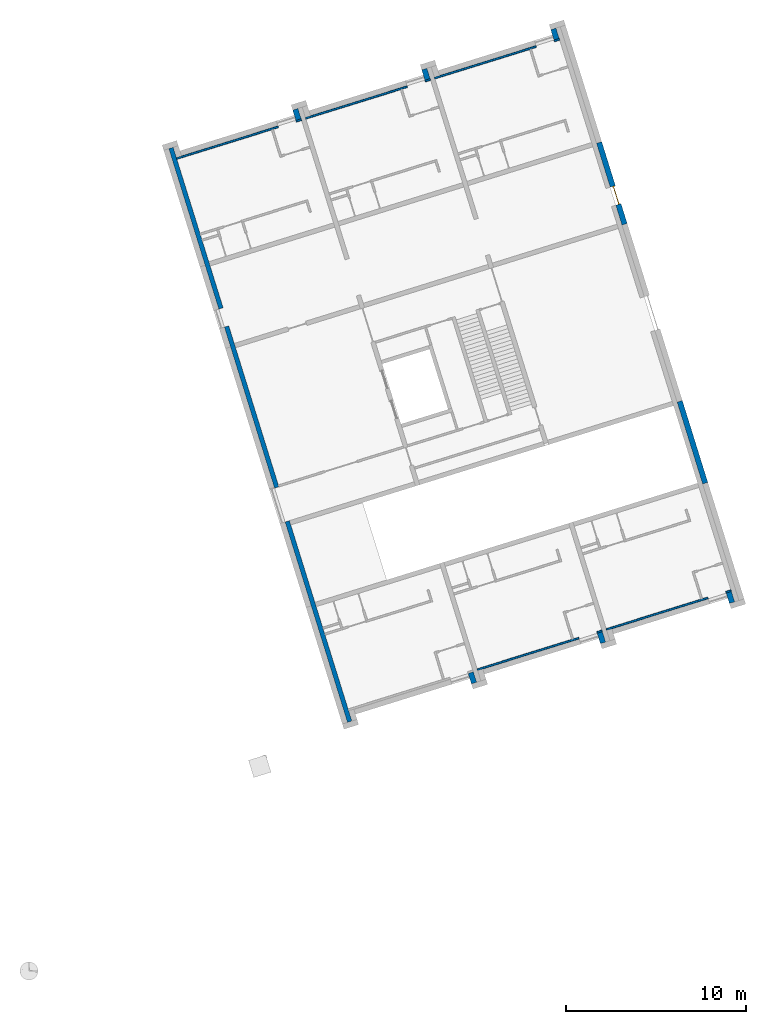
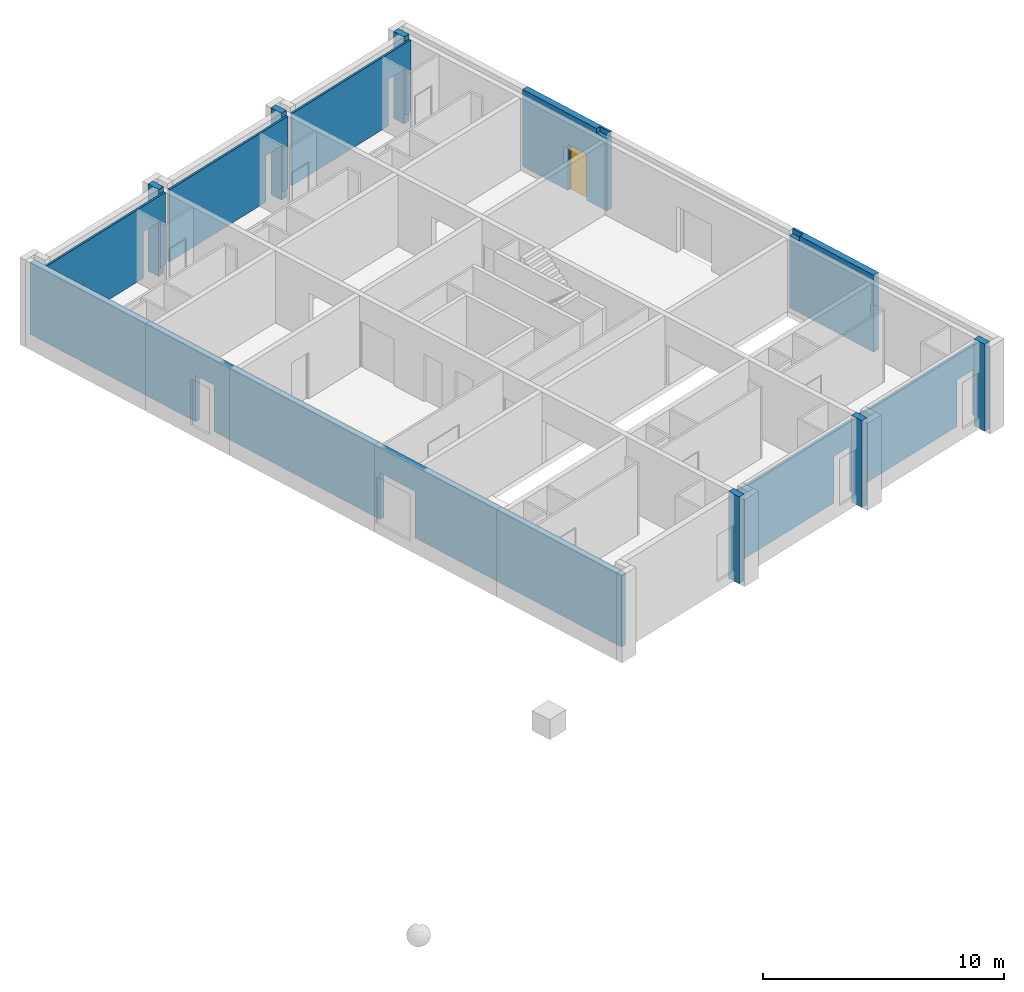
# One storey, part 8 of 10: 14 walls, 1 door, 14 openings.
"""IFC4 building model written with IfcOpenShell, lengths in metres."""

from ifc_helpers import new_model, entity, si_unit, converted_unit, direction, frame, origin, place, context, subcontext, project, spatial, indexed_curve, outline, extrude, polygons, source, transform, mapped, material, constituent, constituent_set, type_object, type_shapes, element, fill, save


model = new_model("IFC4")

# Units and contexts
model_context = context("Model", 3, precision=1e-05, world=origin(), true_north=direction((6.12323399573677e-17, 1.0)))
body_context = subcontext(model_context, "Body", "Model", "MODEL_VIEW")
ifc_project = project(units=[si_unit("LENGTHUNIT", "METRE"), si_unit("AREAUNIT", "SQUARE_METRE"), si_unit("VOLUMEUNIT", "CUBIC_METRE"), converted_unit("PLANEANGLEUNIT", "DEGREE", entity("IfcPlaneAngleMeasure", 0.0174532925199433), si_unit("PLANEANGLEUNIT", "RADIAN"), dimensions=[0, 0, 0, 0, 0, 0, 0])], contexts=[model_context])

# Site, building, storey
site_placement = place(None, frame((13.1347999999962, 11.9886000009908, 0.0), z_axis=(0.0, 0.0, 1.0), x_axis=(0.954770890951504, 0.297342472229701, 0.0)))
site = spatial("IfcSite", under=ifc_project, at=site_placement, Name="Schiehaven", CompositionType="ELEMENT")
building_placement = place(site_placement, origin())
building = spatial("IfcBuilding", under=site, at=building_placement, Name="VORM huis", CompositionType="ELEMENT")
storey_placement = place(building_placement, origin())
storey = spatial("IfcBuildingStorey", under=building, at=storey_placement, Name="00 begane grond", CompositionType="ELEMENT", Elevation=0.0)

# Wall, openings
ifc_material_1 = material(Name="beton_gewapend_ihw", Category="Miscellaneous")
wall_type_1 = type_object("IfcWallType", Name="Basic Wall:28_WA_skelet_wand 250mm_gen", PredefinedType="STANDARD")
wall_1_placement = place(storey_placement, frame((5.0, 0.374999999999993, 0.0), z_axis=(0.0, 0.0, 1.0), x_axis=(0.0, 1.0, 0.0)))
wall_1 = element("IfcWall", 1, at=wall_1_placement, inside=storey, type_object=wall_type_1, material=ifc_material_1, Name="Constructieve wand", ObjectType="Wand", PredefinedType="NOTDEFINED", context=body_context, shape_type="Tessellation", body=[
    polygons([(24.0249999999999, -0.125, 2.34999999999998), (24.0249999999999, -0.125, 0.0), (33.3500000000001, -0.125, 0.0), (33.3500000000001, -0.125, 3.65), (3.38395977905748e-16, -0.125, 3.65), (3.38395977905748e-16, -0.125, 0.0), (11.6500000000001, -0.125000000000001, 0.0), (11.6500000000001, -0.125000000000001, 2.34999999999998), (13.6150000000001, -0.125, 2.34999999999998), (13.6150000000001, -0.125, 0.0), (22.9749999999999, -0.125, 0.0), (22.9749999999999, -0.125, 2.34999999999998), (33.3500000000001, 0.124999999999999, 0.0), (24.0249999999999, 0.124999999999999, 0.0), (24.0249999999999, 0.124999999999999, 2.34999999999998), (22.9749999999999, 0.125, 2.34999999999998), (22.9749999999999, 0.125, 0.0), (13.6150000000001, 0.125, 0.0), (13.6150000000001, 0.125, 2.34999999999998), (11.6500000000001, 0.124999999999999, 2.34999999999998), (11.6500000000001, 0.124999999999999, 0.0), (1.35358391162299e-16, 0.124999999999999, 0.0), (1.35358391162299e-16, 0.124999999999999, 3.65), (10.9500000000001, 0.124999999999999, 3.65), (13.3500000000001, 0.124999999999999, 3.65), (21.8250000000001, 0.124999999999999, 3.65), (22.4, 0.124999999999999, 3.65), (33.3500000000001, 0.124999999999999, 3.65)], [[[1, 2, 3, 4, 5, 6, 7, 8, 9, 10, 11, 12]], [[13, 14, 15, 16, 17, 18, 19, 20, 21, 22, 23, 24, 25, 26, 27, 28]], [[11, 10, 18, 17]], [[4, 3, 13, 28]], [[5, 4, 28, 27, 26, 25, 24, 23]], [[6, 5, 23, 22]], [[10, 9, 19, 18]], [[8, 7, 21, 20]], [[9, 8, 20, 19]], [[17, 16, 12, 11]], [[15, 14, 2, 1]], [[16, 15, 1, 12]], [[3, 2, 14, 13]], [[22, 21, 7, 6]]], closed=True),
])
opening_1_placement = place(wall_1_placement, origin())
element("IfcOpeningElement", 2, at=opening_1_placement, cuts=wall_1, Name="Vluchtdeur", PredefinedType="OPENING", context=body_context, shape_type="SweptSolid", body=[
    extrude(outline(indexed_curve([(-1.17499999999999, -0.9825), (1.17499999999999, -0.982500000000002), (1.17499999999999, 0.982500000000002), (-1.17499999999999, 0.982500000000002), (-1.17499999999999, -0.9825)], self_intersect=False)), frame((12.6325000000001, -1.39899999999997, 1.17499999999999), z_axis=(0.0, 1.0, 0.0), x_axis=(0.0, 0.0, -1.0)), (0.0, 0.0, 1.0), 3.048),
])
opening_2_placement = place(wall_1_placement, origin())
element("IfcOpeningElement", 3, at=opening_2_placement, cuts=wall_1, Name="Vluchtdeur", PredefinedType="OPENING", context=body_context, shape_type="SweptSolid", body=[
    extrude(outline(indexed_curve([(-0.525000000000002, -1.17499999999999), (0.525000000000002, -1.17499999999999), (0.524999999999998, 1.17499999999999), (-0.525000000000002, 1.17499999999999), (-0.525000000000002, -1.17499999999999)], self_intersect=False)), frame((23.4999999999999, -1.39899999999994, 1.17499999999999), z_axis=(0.0, 1.0, 0.0), x_axis=(1.0, 0.0, 0.0)), (0.0, 0.0, 1.0), 3.048),
])

# Wall, opening
ifc_material_2 = material(Name="ntb_ntb_ntb", Category="Miscellaneous")
wall_type_2 = type_object("IfcWallType", Name="Basic Wall:21_WA_gevel_binnenspouwwand 100mm_gen", PredefinedType="STANDARD")
wall_2_placement = place(storey_placement, frame((19.875, 1.02499999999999, 0.0), z_axis=(0.0, 0.0, 1.0), x_axis=(-1.0, 0.0, 0.0)))
wall_2 = element("IfcWall", 4, at=wall_2_placement, inside=storey, type_object=wall_type_2, material=ifc_material_2, Name="Binnenspouwblad", ObjectType="Wand", PredefinedType="NOTDEFINED", context=body_context, shape_type="Tessellation", body=[
    polygons([(7.24999999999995, -0.05, 0.0), (7.24999999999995, -0.05, 3.65), (-1.37363248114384e-15, -0.05, 3.65), (-1.37363248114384e-15, -0.05, 0.0), (0.299999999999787, -0.0499999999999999, 0.0), (0.299999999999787, -0.0499999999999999, 2.34999999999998), (1.34999999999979, -0.05, 2.34999999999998), (1.34999999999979, -0.05, 0.0), (7.24999999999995, 0.05, 3.65), (7.24999999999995, 0.05, 0.0), (1.34999999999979, 0.05, 0.0), (1.34999999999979, 0.05, 2.34999999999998), (0.299999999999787, 0.0500000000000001, 2.34999999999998), (0.299999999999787, 0.0500000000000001, 0.0), (-2.05170732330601e-15, 0.05, 0.0), (-2.05170732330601e-15, 0.05, 3.65)], [[[1, 2, 3, 4, 5, 6, 7, 8]], [[9, 10, 11, 12, 13, 14, 15, 16]], [[4, 15, 14, 5]], [[2, 1, 10, 9]], [[3, 2, 9, 16]], [[4, 3, 16, 15]], [[7, 12, 11, 8]], [[13, 6, 5, 14]], [[12, 7, 6, 13]], [[10, 1, 8, 11]]], closed=True),
])
opening_3_placement = place(wall_2_placement, origin())
element("IfcOpeningElement", 5, at=opening_3_placement, cuts=wall_2, Name="Woningtoegangsdeur", PredefinedType="OPENING", context=body_context, shape_type="SweptSolid", body=[
    extrude(outline(indexed_curve([(-1.17499999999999, -0.525000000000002), (1.17499999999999, -0.525), (1.17499999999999, 0.525), (-1.17499999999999, 0.525), (-1.17499999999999, -0.525000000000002)], self_intersect=False)), frame((0.824999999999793, -1.474, 1.17499999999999), z_axis=(0.0, 1.0, 0.0), x_axis=(0.0, 0.0, -1.0)), (0.0, 0.0, 1.0), 3.048),
])

wall_3_placement = place(storey_placement, frame((20.1250000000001, 1.02500000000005, 0.0)))
wall_3 = element("IfcWall", 6, at=wall_3_placement, inside=storey, type_object=wall_type_2, material=ifc_material_2, Name="Binnenspouwblad", ObjectType="Wand", PredefinedType="NOTDEFINED", context=body_context, shape_type="Tessellation", body=[
    polygons([(7.24999999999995, -0.05, 0.0), (7.24999999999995, -0.05, 3.65), (7.27007190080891e-16, -0.0499999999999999, 3.65), (7.27007190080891e-16, -0.0499999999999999, 0.0), (5.90000000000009, -0.05, 0.0), (5.90000000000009, -0.0500000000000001, 2.34999999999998), (6.95000000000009, -0.0500000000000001, 2.34999999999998), (6.95000000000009, -0.0500000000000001, 0.0), (7.24999999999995, 0.05, 3.65), (7.24999999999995, 0.05, 0.0), (6.95000000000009, 0.0499999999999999, 0.0), (6.95000000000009, 0.0499999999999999, 2.34999999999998), (5.90000000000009, 0.0499999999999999, 2.34999999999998), (5.90000000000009, 0.05, 0.0), (3.57318848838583e-16, 0.0500000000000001, 0.0), (3.57318848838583e-16, 0.0500000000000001, 3.65)], [[[1, 2, 3, 4, 5, 6, 7, 8]], [[9, 10, 11, 12, 13, 14, 15, 16]], [[4, 15, 14, 5]], [[2, 1, 10, 9]], [[3, 2, 9, 16]], [[4, 3, 16, 15]], [[13, 6, 5, 14]], [[7, 12, 11, 8]], [[6, 13, 12, 7]], [[10, 1, 8, 11]]], closed=True),
])
opening_4_placement = place(wall_3_placement, origin())
element("IfcOpeningElement", 7, at=opening_4_placement, cuts=wall_3, Name="Woningtoegangsdeur", PredefinedType="OPENING", context=body_context, shape_type="SweptSolid", body=[
    extrude(outline(indexed_curve([(-0.525000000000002, -1.17499999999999), (0.525000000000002, -1.17499999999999), (0.524999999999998, 1.17499999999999), (-0.525000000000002, 1.17499999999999), (-0.525000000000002, -1.17499999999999)], self_intersect=False)), frame((6.42500000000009, -1.57400000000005, 1.17499999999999), z_axis=(0.0, 1.0, 0.0), x_axis=(1.0, 0.0, 0.0)), (0.0, 0.0, 1.0), 3.048),
])

wall_4_placement = place(storey_placement, frame((5.12500000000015, 33.0750000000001, 0.0)))
wall_4 = element("IfcWall", 8, at=wall_4_placement, inside=storey, type_object=wall_type_2, material=ifc_material_2, Name="Binnenspouwblad", ObjectType="Wand", PredefinedType="NOTDEFINED", context=body_context, shape_type="Tessellation", body=[
    polygons([(7.24999999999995, -0.049999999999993, 0.0), (7.24999999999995, -0.049999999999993, 3.65), (3.03737851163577e-16, -0.0499999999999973, 3.65), (3.03737851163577e-16, -0.0499999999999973, 0.0), (5.90000000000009, -0.0499999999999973, 0.0), (5.90000000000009, -0.0499999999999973, 2.34999999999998), (6.95000000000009, -0.049999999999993, 2.34999999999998), (6.95000000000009, -0.049999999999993, 0.0), (7.24999999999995, 0.0500000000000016, 3.65), (7.24999999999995, 0.0500000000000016, 0.0), (6.95000000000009, 0.050000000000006, 0.0), (6.95000000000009, 0.050000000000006, 2.34999999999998), (5.90000000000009, 0.0500000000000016, 2.34999999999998), (5.90000000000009, 0.0500000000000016, 0.0), (2.92273257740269e-17, 0.0500000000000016, 0.0), (2.92273257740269e-17, 0.0500000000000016, 3.65)], [[[1, 2, 3, 4, 5, 6, 7, 8]], [[9, 10, 11, 12, 13, 14, 15, 16]], [[4, 15, 14, 5]], [[2, 1, 10, 9]], [[3, 2, 9, 16]], [[4, 3, 16, 15]], [[13, 6, 5, 14]], [[7, 12, 11, 8]], [[6, 13, 12, 7]], [[10, 1, 8, 11]]], closed=True),
])
opening_5_placement = place(wall_4_placement, origin())
element("IfcOpeningElement", 9, at=opening_5_placement, cuts=wall_4, Name="Woningtoegangsdeur", PredefinedType="OPENING", context=body_context, shape_type="SweptSolid", body=[
    extrude(outline(indexed_curve([(-0.525, -1.17499999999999), (0.525000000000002, -1.17499999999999), (0.525000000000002, 1.17499999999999), (-0.525, 1.17499999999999), (-0.525, -1.17499999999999)], self_intersect=False)), frame((6.42500000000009, -1.474, 1.17499999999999), z_axis=(0.0, 1.0, 0.0), x_axis=(1.0, 0.0, 0.0)), (0.0, 0.0, 1.0), 3.048),
])

wall_5_placement = place(storey_placement, frame((19.8750000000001, 33.075, 0.0), z_axis=(0.0, 0.0, 1.0), x_axis=(-1.0, 0.0, 0.0)))
wall_5 = element("IfcWall", 10, at=wall_5_placement, inside=storey, type_object=wall_type_2, material=ifc_material_2, Name="Binnenspouwblad", ObjectType="Wand", PredefinedType="NOTDEFINED", context=body_context, shape_type="Tessellation", body=[
    polygons([(7.24999999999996, -0.0499999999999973, 0.0), (7.24999999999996, -0.0499999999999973, 3.65), (1.77298865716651e-15, -0.0500000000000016, 3.65), (6.10445717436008e-15, -0.0500000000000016, 0.0), (0.299999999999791, -0.0500000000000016, 0.0), (0.299999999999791, -0.0500000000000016, 2.34999999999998), (1.3499999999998, -0.050000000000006, 2.34999999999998), (1.3499999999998, -0.050000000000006, 0.0), (7.24999999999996, 0.0500000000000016, 3.65), (7.24999999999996, 0.0500000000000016, 0.0), (1.3499999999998, 0.0499999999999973, 0.0), (1.3499999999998, 0.0499999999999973, 2.34999999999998), (0.299999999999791, 0.0500000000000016, 2.34999999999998), (0.299999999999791, 0.0500000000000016, 0.0), (6.13833314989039e-15, 0.0500000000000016, 0.0), (1.80686463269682e-15, 0.0500000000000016, 3.65)], [[[1, 2, 3, 4, 5, 6, 7, 8]], [[9, 10, 11, 12, 13, 14, 15, 16]], [[4, 15, 14, 5]], [[2, 1, 10, 9]], [[3, 2, 9, 16]], [[4, 3, 16, 15]], [[7, 12, 11, 8]], [[13, 6, 5, 14]], [[12, 7, 6, 13]], [[10, 1, 8, 11]]], closed=True),
])
opening_6_placement = place(wall_5_placement, origin())
element("IfcOpeningElement", 11, at=opening_6_placement, cuts=wall_5, Name="Woningtoegangsdeur", PredefinedType="OPENING", context=body_context, shape_type="SweptSolid", body=[
    extrude(outline(indexed_curve([(-1.17499999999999, -0.525), (1.17499999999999, -0.525000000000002), (1.17499999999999, 0.525000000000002), (-1.17499999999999, 0.525000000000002), (-1.17499999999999, -0.525)], self_intersect=False)), frame((0.824999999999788, -1.574, 1.17499999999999), z_axis=(0.0, 1.0, 0.0), x_axis=(0.0, 0.0, -1.0)), (0.0, 0.0, 1.0), 3.048),
])

wall_6_placement = place(storey_placement, frame((20.1250000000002, 33.075, 0.0)))
wall_6 = element("IfcWall", 12, at=wall_6_placement, inside=storey, type_object=wall_type_2, material=ifc_material_2, Name="Binnenspouwblad", ObjectType="Wand", PredefinedType="NOTDEFINED", context=body_context, shape_type="Tessellation", body=[
    polygons([(7.24999999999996, -0.0500000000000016, 0.0), (7.24999999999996, -0.0500000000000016, 3.65), (3.03737851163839e-16, -0.0499999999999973, 3.65), (4.63520636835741e-15, -0.0499999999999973, 0.0), (5.90000000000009, -0.0500000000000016, 0.0), (5.90000000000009, -0.0500000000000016, 2.34999999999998), (6.9500000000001, -0.0499999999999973, 2.34999999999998), (6.9500000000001, -0.0499999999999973, 0.0), (7.24999999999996, 0.0499999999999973, 3.65), (7.24999999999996, 0.0499999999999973, 0.0), (6.9500000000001, 0.0499999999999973, 0.0), (6.9500000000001, 0.050000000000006, 2.34999999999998), (5.90000000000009, 0.0500000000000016, 2.34999999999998), (5.90000000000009, 0.0500000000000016, 0.0), (4.36069584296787e-15, 0.0499999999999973, 0.0), (2.92273257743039e-17, 0.0499999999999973, 3.65)], [[[1, 2, 3, 4, 5, 6, 7, 8]], [[9, 10, 11, 12, 13, 14, 15, 16]], [[4, 15, 14, 5]], [[2, 1, 10, 9]], [[3, 2, 9, 16]], [[4, 3, 16, 15]], [[13, 6, 5, 14]], [[7, 12, 11, 8]], [[6, 13, 12, 7]], [[10, 1, 8, 11]]], closed=True),
])
opening_7_placement = place(wall_6_placement, origin())
element("IfcOpeningElement", 13, at=opening_7_placement, cuts=wall_6, Name="Woningtoegangsdeur", PredefinedType="OPENING", context=body_context, shape_type="SweptSolid", body=[
    extrude(outline(indexed_curve([(-0.525000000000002, -1.17499999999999), (0.525000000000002, -1.17499999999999), (0.524999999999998, 1.17499999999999), (-0.525000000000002, 1.17499999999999), (-0.525000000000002, -1.17499999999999)], self_intersect=False)), frame((6.42500000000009, -1.47399999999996, 1.17499999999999), z_axis=(0.0, 1.0, 0.0), x_axis=(1.0, 0.0, 0.0)), (0.0, 0.0, 1.0), 3.048),
])

# Wall, opening, door
wall_type_3 = type_object("IfcWallType", Name="Basic Wall: 300mm_gen", PredefinedType="STANDARD")
wall_7_placement = place(storey_placement, frame((27.7750000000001, 26.9499999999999, 0.0), z_axis=(0.0, 0.0, 1.0), x_axis=(0.0, -1.0, 0.0)))
wall_7 = element("IfcWall", 14, at=wall_7_placement, inside=storey, type_object=wall_type_3, material=ifc_material_2, Name="Gevelwand", ObjectType="Wand", PredefinedType="NOTDEFINED", context=body_context, shape_type="Tessellation", body=[
    polygons([(-3.5527136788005e-15, -0.150000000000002, 3.9), (-3.5527136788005e-15, -0.150000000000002, 0.0), (2.54999999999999, -0.15, 0.0), (2.54999999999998, -0.15, 2.34999999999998), (3.59999999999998, -0.149999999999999, 2.34999999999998), (3.59999999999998, -0.149999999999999, 0.0), (4.74999999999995, -0.15, 0.0), (4.74999999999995, -0.15, 3.65), (4.17500000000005, -0.150000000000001, 3.65), (4.17500000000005, -0.150000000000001, 3.9), (4.74999999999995, 0.150000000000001, 3.9), (4.74999999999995, 0.150000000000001, 0.0), (3.59999999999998, 0.150000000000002, 0.0), (3.59999999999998, 0.150000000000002, 2.34999999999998), (2.54999999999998, 0.15, 2.34999999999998), (2.54999999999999, 0.15, 0.0), (-3.5527136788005e-15, 0.149999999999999, 0.0), (-3.5527136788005e-15, 0.149999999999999, 3.9), (4.74999999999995, 0.0499999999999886, 3.9), (4.74999999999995, 0.0499999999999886, 3.65), (4.17500000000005, 0.0499999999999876, 3.9), (4.17500000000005, 0.0499999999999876, 3.65)], [[[1, 2, 3, 4, 5, 6, 7, 8, 9, 10]], [[11, 12, 13, 14, 15, 16, 17, 18]], [[2, 17, 16, 3]], [[12, 11, 19, 20, 8, 7]], [[11, 18, 1, 10, 21, 19]], [[2, 1, 18, 17]], [[5, 4, 15, 14]], [[4, 3, 16, 15]], [[6, 5, 14, 13]], [[20, 22, 9, 8]], [[22, 21, 10, 9]], [[21, 22, 20, 19]], [[12, 7, 6, 13]]], closed=True),
])
opening_8_placement = place(wall_7_placement, frame((2.54999999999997, -0.150000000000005, 0.0)))
opening_8 = element("IfcOpeningElement", 15, at=opening_8_placement, cuts=wall_7, Name="Vluchtdeur", PredefinedType="OPENING", context=body_context, shape_type="SweptSolid", body=[
    extrude(outline(indexed_curve([(2.34999999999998, 1.05), (0.0, 1.05), (0.0, 0.0), (2.34999999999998, 0.0), (2.34999999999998, 1.05)], self_intersect=False)), frame((0.0, 0.0, 0.0), z_axis=(0.0, 1.0, 0.0), x_axis=(0.0, 0.0, 1.0)), (0.0, 0.0, 1.0), 0.3),
])
ifc_material_3 = material(Name="PD_a_buitenwandopeningen", Category="Miscellaneous")
ifc_constituent_1 = constituent(ifc_material_3, Name="PD_a_buitenwandopeningen", Category="Miscellaneous")
ifc_material_4 = material(Name="metaal_aluminium_ntb", Category="Miscellaneous")
ifc_constituent_2 = constituent(ifc_material_4, Name="metaal_aluminium_ntb", Category="Miscellaneous")
ifc_constituent_set = constituent_set(constituents=[ifc_constituent_1, ifc_constituent_2])
door_type = type_object("IfcDoorType", Name="31_DO_buitendeur enkel:buitendeur zelfsluitend 30min", OperationType="NOTDEFINED", PredefinedType="DOOR")
shared_shape = source(origin(), body_context, "Body", "SweptSolid", [
    extrude(outline(indexed_curve([(-1.16249999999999, -0.525000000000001), (1.18749999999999, -0.525), (1.18749999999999, 0.525000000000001), (-1.16249999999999, 0.525), (-1.16249999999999, 0.475), (1.13749999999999, 0.475), (1.13749999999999, -0.475), (-1.16249999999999, -0.475), (-1.16249999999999, -0.525000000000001)], self_intersect=False)), frame((0.525000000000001, 0.130000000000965, 1.16249999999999), z_axis=(0.0, 1.0, 0.0), x_axis=(0.0, 0.0, 1.0)), (0.0, 0.0, 1.0), 0.1),
    extrude(outline(indexed_curve([(-0.025, -0.475), (0.025, -0.475), (0.025, 0.475), (-0.025, 0.475), (-0.025, -0.475)], self_intersect=False)), frame((0.525000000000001, 0.180000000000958, 0.0), z_axis=(0.0, 0.0, 1.0), x_axis=(0.0, 1.0, 0.0)), (0.0, 0.0, 1.0), 2.29999999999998),
])
type_shapes(door_type, [shared_shape])
door_placement = place(opening_8_placement, origin())
door = element("IfcDoor", 16, at=door_placement, inside=storey, type_object=door_type, material=ifc_constituent_set, Name="Vluchtdeur", ObjectType="Deur", OperationType="NOTDEFINED", OverallHeight=2.34999999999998, OverallWidth=1.05, PredefinedType="DOOR", context=body_context, shape_type="MappedRepresentation", body=[
    mapped(shared_shape, transform((0.0, 0.0, 0.0), scale=1.0)),
])
fill(opening_8, door)

# Wall
wall_8_placement = place(storey_placement, frame((27.7750000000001, 11.905, 0.0), z_axis=(0.0, 0.0, 1.0), x_axis=(0.0, -1.0, 0.0)))
element("IfcWall", 17, at=wall_8_placement, inside=storey, type_object=wall_type_3, material=ifc_material_2, Name="Gevelwand", ObjectType="Wand", PredefinedType="NOTDEFINED", context=body_context, shape_type="Tessellation", body=[
    polygons([(0.0, -0.150000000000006, 0.0), (4.75499999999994, -0.150000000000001, 0.0), (4.75499999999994, -0.150000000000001, 3.9), (0.579999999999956, -0.150000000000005, 3.9), (0.579999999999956, -0.150000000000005, 3.65), (0.0, -0.150000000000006, 3.65), (4.75499999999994, 0.15, 0.0), (-1.77635683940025e-15, 0.149999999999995, 0.0), (-1.77635683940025e-15, 0.149999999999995, 3.9), (4.75499999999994, 0.15, 3.9), (-1.77635683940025e-15, 0.0499999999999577, 3.9), (0.579999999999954, 0.0499999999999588, 3.9), (-1.77635683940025e-15, 0.0499999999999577, 3.65), (0.579999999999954, 0.0499999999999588, 3.65)], [[[1, 2, 3, 4, 5, 6]], [[7, 8, 9, 10]], [[2, 1, 8, 7]], [[3, 2, 7, 10]], [[10, 9, 11, 12, 4, 3]], [[9, 8, 1, 6, 13, 11]], [[5, 14, 13, 6]], [[12, 14, 5, 4]], [[14, 12, 11, 13]]], closed=True),
])

# Wall, opening
wall_9_placement = place(storey_placement, frame((12.225, 0.375000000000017, -0.5), z_axis=(0.0, 0.0, 1.0), x_axis=(0.0, 1.0, 0.0)))
wall_9 = element("IfcWall", 18, at=wall_9_placement, inside=storey, type_object=wall_type_3, material=ifc_material_2, Name="Gevelwand", ObjectType="Wand", PredefinedType="NOTDEFINED", context=body_context, shape_type="Tessellation", body=[
    polygons([(6.76791955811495e-17, -0.149999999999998, 0.0), (0.600000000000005, -0.149999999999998, 0.0), (0.600000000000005, -0.149999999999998, 4.4), (6.76791955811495e-17, -0.149999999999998, 4.4), (1.01518793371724e-15, 0.150000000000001, 0.0), (1.01518793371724e-15, 0.150000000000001, 4.4), (0.300000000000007, 0.150000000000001, 4.4), (0.600000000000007, 0.150000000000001, 4.4), (0.600000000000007, 0.150000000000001, 2.84999999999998), (0.600000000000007, 0.150000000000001, 0.5), (0.600000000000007, 0.150000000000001, 0.0), (0.300000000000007, 0.150000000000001, 0.0)], [[[1, 2, 3, 4]], [[5, 6, 7, 8, 9, 10, 11, 12]], [[2, 1, 5, 12, 11]], [[4, 3, 8, 7, 6]], [[3, 2, 11, 10, 9, 8]], [[1, 4, 6, 5]]], closed=True),
])
opening_9_placement = place(wall_9_placement, origin())
element("IfcOpeningElement", 19, at=opening_9_placement, cuts=wall_9, Name="Woningtoegangsdeur", PredefinedType="OPENING", context=body_context, shape_type="SweptSolid", body=[
    extrude(outline(indexed_curve([(-0.15, -1.17499999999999), (0.15, -1.17499999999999), (0.15, 1.17499999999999), (-0.15, 1.17499999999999), (-0.15, -1.17499999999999)], self_intersect=False)), frame((0.450000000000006, 0.149999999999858, 1.67499999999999), z_axis=(0.0, 1.0, 0.0), x_axis=(1.0, 0.0, 0.0)), (0.0, 0.0, 1.0), 1.05),
])

wall_10_placement = place(storey_placement, frame((19.7250000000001, 0.374999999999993, -0.5), z_axis=(0.0, 0.0, 1.0), x_axis=(0.0, 1.0, 0.0)))
wall_10 = element("IfcWall", 20, at=wall_10_placement, inside=storey, type_object=wall_type_3, material=ifc_material_2, Name="Gevelwand", ObjectType="Wand", PredefinedType="NOTDEFINED", context=body_context, shape_type="Tessellation", body=[
    polygons([(-6.76791955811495e-17, -0.150000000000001, 0.0), (0.600000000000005, -0.150000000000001, 0.0), (0.600000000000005, -0.150000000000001, 4.4), (-6.76791955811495e-17, -0.150000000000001, 4.4), (6.76791955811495e-17, 0.150000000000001, 0.0), (6.76791955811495e-17, 0.150000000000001, 4.4), (0.300000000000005, 0.150000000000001, 4.4), (0.600000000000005, 0.150000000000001, 4.4), (0.600000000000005, 0.150000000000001, 2.84999999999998), (0.600000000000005, 0.150000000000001, 0.5), (0.600000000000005, 0.150000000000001, 0.0), (0.300000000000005, 0.150000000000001, 0.0)], [[[1, 2, 3, 4]], [[5, 6, 7, 8, 9, 10, 11, 12]], [[2, 1, 5, 12, 11]], [[4, 3, 8, 7, 6]], [[3, 2, 11, 10, 9, 8]], [[1, 4, 6, 5]]], closed=True),
])
opening_10_placement = place(wall_10_placement, origin())
element("IfcOpeningElement", 21, at=opening_10_placement, cuts=wall_10, Name="Woningtoegangsdeur", PredefinedType="OPENING", context=body_context, shape_type="SweptSolid", body=[
    extrude(outline(indexed_curve([(-0.15, -1.17499999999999), (0.15, -1.17499999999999), (0.15, 1.17499999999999), (-0.15, 1.17499999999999), (-0.15, -1.17499999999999)], self_intersect=False)), frame((0.450000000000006, 0.149999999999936, 1.67499999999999), z_axis=(0.0, 1.0, 0.0), x_axis=(1.0, 0.0, 0.0)), (0.0, 0.0, 1.0), 1.05),
])

wall_11_placement = place(storey_placement, frame((27.2250000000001, 0.374999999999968, -0.5), z_axis=(0.0, 0.0, 1.0), x_axis=(0.0, 1.0, 0.0)))
wall_11 = element("IfcWall", 22, at=wall_11_placement, inside=storey, type_object=wall_type_3, material=ifc_material_2, Name="Gevelwand", ObjectType="Wand", PredefinedType="NOTDEFINED", context=body_context, shape_type="Tessellation", body=[
    polygons([(6.76791955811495e-17, -0.150000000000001, 0.0), (0.600000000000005, -0.150000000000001, 0.0), (0.600000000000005, -0.150000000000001, 4.4), (6.76791955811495e-17, -0.150000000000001, 4.4), (1.01518793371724e-15, 0.150000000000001, 0.0), (1.01518793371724e-15, 0.150000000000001, 4.4), (0.300000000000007, 0.150000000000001, 4.4), (0.600000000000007, 0.150000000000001, 4.4), (0.600000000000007, 0.150000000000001, 2.84999999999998), (0.600000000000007, 0.150000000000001, 0.5), (0.600000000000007, 0.150000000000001, 0.0), (0.300000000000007, 0.150000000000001, 0.0)], [[[1, 2, 3, 4]], [[5, 6, 7, 8, 9, 10, 11, 12]], [[2, 1, 5, 12, 11]], [[4, 3, 8, 7, 6]], [[3, 2, 11, 10, 9, 8]], [[1, 4, 6, 5]]], closed=True),
])
opening_11_placement = place(wall_11_placement, origin())
element("IfcOpeningElement", 23, at=opening_11_placement, cuts=wall_11, Name="Woningtoegangsdeur", PredefinedType="OPENING", context=body_context, shape_type="SweptSolid", body=[
    extrude(outline(indexed_curve([(-0.15, -1.17499999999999), (0.15, -1.17499999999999), (0.15, 1.17499999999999), (-0.15, 1.17499999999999), (-0.15, -1.17499999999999)], self_intersect=False)), frame((0.450000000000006, 0.149999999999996, 1.67499999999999), z_axis=(0.0, 1.0, 0.0), x_axis=(1.0, 0.0, 0.0)), (0.0, 0.0, 1.0), 1.05),
])

wall_12_placement = place(storey_placement, frame((12.2250000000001, 33.725, -0.5), z_axis=(0.0, 0.0, 1.0), x_axis=(0.0, -1.0, 0.0)))
wall_12 = element("IfcWall", 24, at=wall_12_placement, inside=storey, type_object=wall_type_3, material=ifc_material_2, Name="Gevelwand", ObjectType="Wand", PredefinedType="NOTDEFINED", context=body_context, shape_type="Tessellation", body=[
    polygons([(0.0, -0.149999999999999, 0.0), (0.300000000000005, -0.149999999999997, 0.0), (0.600000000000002, -0.15, 0.0), (0.600000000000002, -0.149999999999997, 0.5), (0.600000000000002, -0.149999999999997, 2.84999999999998), (0.600000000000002, -0.15, 4.4), (0.300000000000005, -0.149999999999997, 4.4), (0.0, -0.149999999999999, 4.4), (0.0, 0.150000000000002, 0.0), (0.0, 0.150000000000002, 4.4), (0.600000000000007, 0.150000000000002, 4.4), (0.600000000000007, 0.150000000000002, 0.0)], [[[1, 2, 3, 4, 5, 6, 7, 8]], [[9, 10, 11, 12]], [[3, 2, 1, 9, 12]], [[8, 7, 6, 11, 10]], [[6, 5, 4, 3, 12, 11]], [[1, 8, 10, 9]]], closed=True),
])
opening_12_placement = place(wall_12_placement, origin())
element("IfcOpeningElement", 25, at=opening_12_placement, cuts=wall_12, Name="Woningtoegangsdeur", PredefinedType="OPENING", context=body_context, shape_type="SweptSolid", body=[
    extrude(outline(indexed_curve([(-0.150000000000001, -1.17499999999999), (0.150000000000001, -1.17499999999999), (0.150000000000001, 1.17499999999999), (-0.150000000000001, 1.17499999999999), (-0.150000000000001, -1.17499999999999)], self_intersect=False)), frame((0.45000000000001, -1.19999999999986, 1.67499999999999), z_axis=(0.0, 1.0, 0.0), x_axis=(-1.0, 0.0, 0.0)), (0.0, 0.0, 1.0), 1.05),
])

wall_13_placement = place(storey_placement, frame((19.7250000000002, 33.725, -0.5), z_axis=(0.0, 0.0, 1.0), x_axis=(0.0, -1.0, 0.0)))
wall_13 = element("IfcWall", 26, at=wall_13_placement, inside=storey, type_object=wall_type_3, material=ifc_material_2, Name="Gevelwand", ObjectType="Wand", PredefinedType="NOTDEFINED", context=body_context, shape_type="Tessellation", body=[
    polygons([(0.0, -0.150000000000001, 0.0), (0.300000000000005, -0.150000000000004, 0.0), (0.600000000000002, -0.150000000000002, 0.0), (0.600000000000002, -0.150000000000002, 0.5), (0.600000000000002, -0.150000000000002, 2.84999999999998), (0.600000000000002, -0.150000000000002, 4.4), (0.300000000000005, -0.150000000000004, 4.4), (0.0, -0.150000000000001, 4.4), (-4.33146851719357e-15, 0.15, 0.0), (-4.33146851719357e-15, 0.15, 4.4), (0.599999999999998, 0.149999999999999, 4.4), (0.599999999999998, 0.149999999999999, 0.0)], [[[1, 2, 3, 4, 5, 6, 7, 8]], [[9, 10, 11, 12]], [[3, 2, 1, 9, 12]], [[8, 7, 6, 11, 10]], [[6, 5, 4, 3, 12, 11]], [[1, 8, 10, 9]]], closed=True),
])
opening_13_placement = place(wall_13_placement, origin())
element("IfcOpeningElement", 27, at=opening_13_placement, cuts=wall_13, Name="Woningtoegangsdeur", PredefinedType="OPENING", context=body_context, shape_type="SweptSolid", body=[
    extrude(outline(indexed_curve([(-0.150000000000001, -1.17499999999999), (0.150000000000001, -1.17499999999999), (0.150000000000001, 1.17499999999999), (-0.150000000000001, 1.17499999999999), (-0.150000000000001, -1.17499999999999)], self_intersect=False)), frame((0.450000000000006, -1.19999999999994, 1.67499999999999), z_axis=(0.0, 1.0, 0.0), x_axis=(-1.0, 0.0, 0.0)), (0.0, 0.0, 1.0), 1.05000000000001),
])

wall_14_placement = place(storey_placement, frame((27.2250000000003, 33.725, -0.5), z_axis=(0.0, 0.0, 1.0), x_axis=(0.0, -1.0, 0.0)))
wall_14 = element("IfcWall", 28, at=wall_14_placement, inside=storey, type_object=wall_type_3, material=ifc_material_2, Name="Gevelwand", ObjectType="Wand", PredefinedType="NOTDEFINED", context=body_context, shape_type="Tessellation", body=[
    polygons([(0.0, -0.150000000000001, 0.0), (0.30000000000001, -0.150000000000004, 0.0), (0.600000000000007, -0.150000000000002, 0.0), (0.600000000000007, -0.150000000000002, 0.5), (0.600000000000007, -0.150000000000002, 2.84999999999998), (0.600000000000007, -0.150000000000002, 4.4), (0.30000000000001, -0.150000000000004, 4.4), (0.0, -0.150000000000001, 4.4), (-4.33146851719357e-15, 0.15, 0.0), (-4.33146851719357e-15, 0.15, 4.4), (0.600000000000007, 0.149999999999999, 4.4), (0.600000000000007, 0.149999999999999, 0.0)], [[[1, 2, 3, 4, 5, 6, 7, 8]], [[9, 10, 11, 12]], [[3, 2, 1, 9, 12]], [[8, 7, 6, 11, 10]], [[6, 5, 4, 3, 12, 11]], [[1, 8, 10, 9]]], closed=True),
])
opening_14_placement = place(wall_14_placement, origin())
element("IfcOpeningElement", 29, at=opening_14_placement, cuts=wall_14, Name="Woningtoegangsdeur", PredefinedType="OPENING", context=body_context, shape_type="SweptSolid", body=[
    extrude(outline(indexed_curve([(-0.150000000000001, -1.17499999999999), (0.150000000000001, -1.17499999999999), (0.150000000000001, 1.17499999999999), (-0.150000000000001, 1.17499999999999), (-0.150000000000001, -1.17499999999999)], self_intersect=False)), frame((0.45000000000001, -1.20000000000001, 1.67499999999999), z_axis=(0.0, 1.0, 0.0), x_axis=(-1.0, 0.0, 0.0)), (0.0, 0.0, 1.0), 1.05),
])

save(model, "model.ifc")
